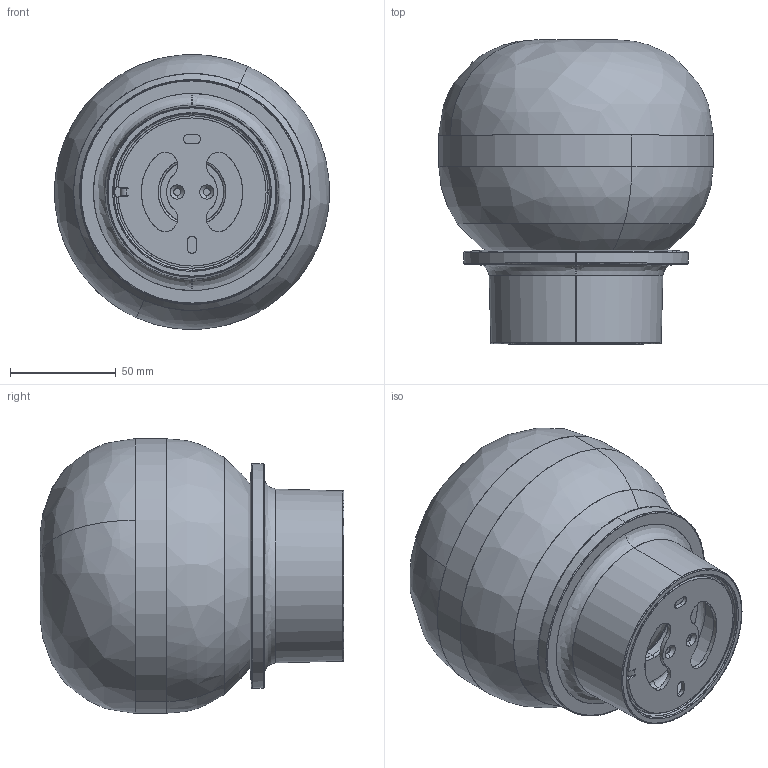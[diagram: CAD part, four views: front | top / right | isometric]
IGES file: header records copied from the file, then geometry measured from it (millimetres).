
Start section: SolidWorks IGES file using analytic representation for surfaces
Global section: file name: G:\Drive condivisi\Ufficio Tecnico\Prodotti\A08 Lille\Progetto\A08-W1\3d Step\Lille Wall.IGS; native system: SolidWorks 2024; preprocessor: SolidWorks 2024; author: Tecnico01; date: 250605.092053; units: millimetre
Bounding box: 130 x 143.69 x 130 mm (x, y, z)
Surface area: 139294.3 mm2 (no closed solid volume)
Topology: 0 solids, 0 shells, 127 faces, 2197 edges, 2197 vertices
Faces by surface type: bspline 69, revolution 58
